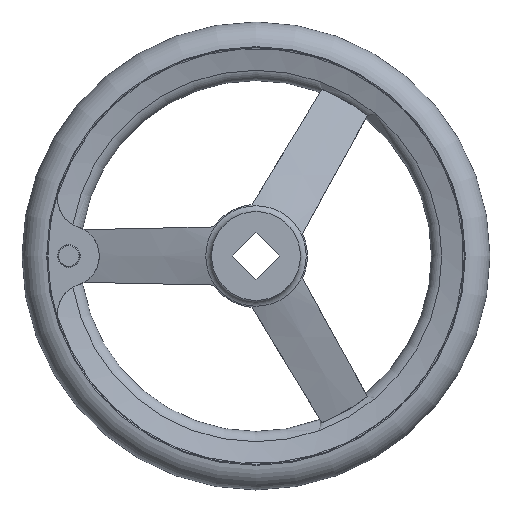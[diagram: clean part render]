
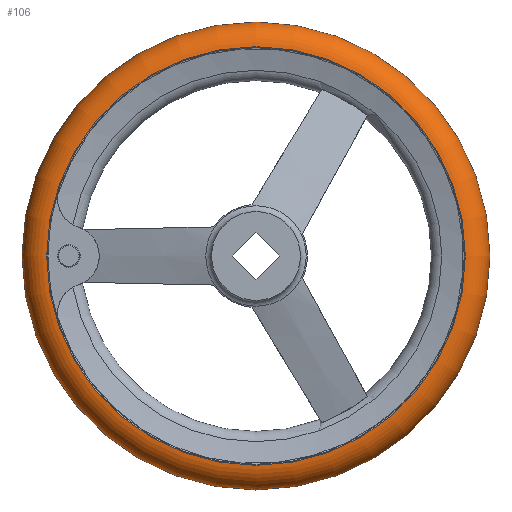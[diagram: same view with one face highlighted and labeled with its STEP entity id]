
A CAD part, left-side view. The second image highlights one B-rep face of the part: STEP entity #106.
In plain terms, the highlighted toroidal (fillet/blend) face has major radius 88.99 mm and minor radius 11.01 mm.
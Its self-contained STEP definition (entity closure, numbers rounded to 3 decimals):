
#106 = ADVANCED_FACE( '', ( #208, #209, #210 ), #211, .T. );
#208 = FACE_BOUND( '', #371, .T. );
#209 = FACE_OUTER_BOUND( '', #372, .T. );
#210 = FACE_OUTER_BOUND( '', #373, .T. );
#211 = TOROIDAL_SURFACE( '', #374, 88.99, 11.01 );
#371 = VERTEX_LOOP( '', #665 );
#372 = EDGE_LOOP( '', ( #666 ) );
#373 = EDGE_LOOP( '', ( #667 ) );
#374 = AXIS2_PLACEMENT_3D( '', #668, #669, #670 );
#665 = VERTEX_POINT( '', #907 );
#666 = ORIENTED_EDGE( '', *, *, #908, .T. );
#667 = ORIENTED_EDGE( '', *, *, #900, .F. );
#668 = CARTESIAN_POINT( '', ( 34., 0., 0. ) );
#669 = DIRECTION( '', ( 1., 0., 0. ) );
#670 = DIRECTION( '', ( 0., 1., 0. ) );
#900 = EDGE_CURVE( '', #1092, #1092, #1093, .T. );
#907 = CARTESIAN_POINT( '', ( 34., 100., 0. ) );
#908 = EDGE_CURVE( '', #1103, #1103, #1104, .T. );
#1092 = VERTEX_POINT( '', #1771 );
#1093 = CIRCLE( '', #1772, 89.458 );
#1103 = VERTEX_POINT( '', #1787 );
#1104 = CIRCLE( '', #1788, 89.458 );
#1771 = CARTESIAN_POINT( '', ( 45., 89.458, 0. ) );
#1772 = AXIS2_PLACEMENT_3D( '', #1967, #1968, #1969 );
#1787 = CARTESIAN_POINT( '', ( 23., 89.458, 0. ) );
#1788 = AXIS2_PLACEMENT_3D( '', #1981, #1982, #1983 );
#1967 = CARTESIAN_POINT( '', ( 45., 0., 0. ) );
#1968 = DIRECTION( '', ( 1., 0., 0. ) );
#1969 = DIRECTION( '', ( 0., 1., 0. ) );
#1981 = CARTESIAN_POINT( '', ( 23., 0., 0. ) );
#1982 = DIRECTION( '', ( 1., 0., 0. ) );
#1983 = DIRECTION( '', ( 0., 1., 0. ) );
